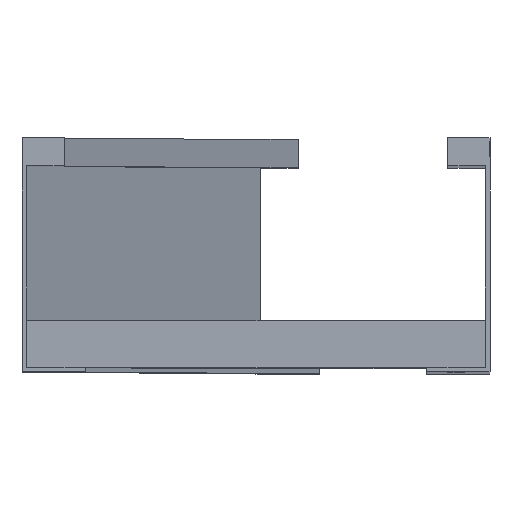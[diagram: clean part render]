
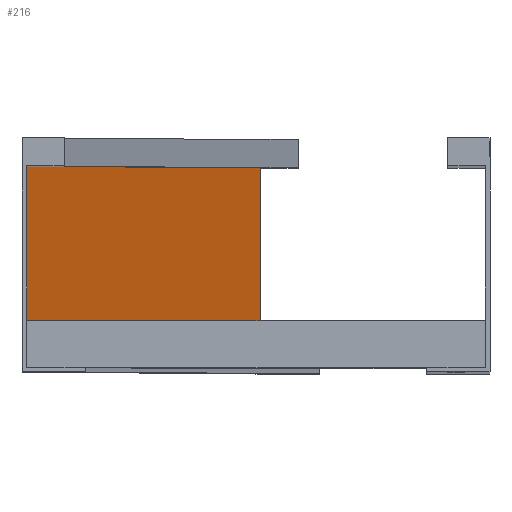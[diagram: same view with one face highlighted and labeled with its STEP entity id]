
A CAD part, top view. The second image highlights one B-rep face of the part: STEP entity #216.
In plain terms, the highlighted planar face has unit normal (0.923, 0, 0.385).
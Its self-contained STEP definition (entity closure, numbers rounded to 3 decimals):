
#64 = DIRECTION ( 'NONE',  ( -0.385, 0., 0.923 ) ) ;
#185 = LINE ( 'NONE', #2752, #3115 ) ;
#204 = DIRECTION ( 'NONE',  ( 0.385, 0., -0.923 ) ) ;
#216 = ADVANCED_FACE ( 'NONE', ( #1755 ), #3095, .F. ) ;
#283 = EDGE_CURVE ( 'NONE', #1248, #3615, #689, .T. ) ;
#298 = DIRECTION ( 'NONE',  ( -0.923, 0., -0.385 ) ) ;
#384 = CARTESIAN_POINT ( 'NONE',  ( 2., 88., -179.6 ) ) ;
#399 = DIRECTION ( 'NONE',  ( 0., -1., 0. ) ) ;
#411 = CARTESIAN_POINT ( 'NONE',  ( 102., 88., -419.6 ) ) ;
#414 = CARTESIAN_POINT ( 'NONE',  ( 2., 2., -179.6 ) ) ;
#422 = VECTOR ( 'NONE', #399, 1000. ) ;
#585 = LINE ( 'NONE', #2587, #1444 ) ;
#589 = CARTESIAN_POINT ( 'NONE',  ( 1.846, 88., -179.231 ) ) ;
#666 = LINE ( 'NONE', #1593, #1376 ) ;
#677 = ORIENTED_EDGE ( 'NONE', *, *, #2242, .T. ) ;
#689 = LINE ( 'NONE', #2907, #422 ) ;
#731 = CARTESIAN_POINT ( 'NONE',  ( 102., 2., -419.6 ) ) ;
#939 = VERTEX_POINT ( 'NONE', #731 ) ;
#1014 = AXIS2_PLACEMENT_3D ( 'NONE', #589, #298, #64 ) ;
#1248 = VERTEX_POINT ( 'NONE', #384 ) ;
#1376 = VECTOR ( 'NONE', #2726, 1000. ) ;
#1444 = VECTOR ( 'NONE', #2023, 1000. ) ;
#1487 = ORIENTED_EDGE ( 'NONE', *, *, #2661, .F. ) ;
#1593 = CARTESIAN_POINT ( 'NONE',  ( 1.846, 2., -179.231 ) ) ;
#1755 = FACE_OUTER_BOUND ( 'NONE', #3361, .T. ) ;
#1836 = VERTEX_POINT ( 'NONE', #411 ) ;
#1865 = ORIENTED_EDGE ( 'NONE', *, *, #283, .T. ) ;
#1939 = EDGE_CURVE ( 'NONE', #1248, #1836, #185, .T. ) ;
#2023 = DIRECTION ( 'NONE',  ( 0., -1., 0. ) ) ;
#2242 = EDGE_CURVE ( 'NONE', #3615, #939, #666, .T. ) ;
#2587 = CARTESIAN_POINT ( 'NONE',  ( 102., 88., -419.6 ) ) ;
#2661 = EDGE_CURVE ( 'NONE', #1836, #939, #585, .T. ) ;
#2726 = DIRECTION ( 'NONE',  ( 0.385, 0., -0.923 ) ) ;
#2752 = CARTESIAN_POINT ( 'NONE',  ( 1.846, 88., -179.231 ) ) ;
#2907 = CARTESIAN_POINT ( 'NONE',  ( 2., 88., -179.6 ) ) ;
#3095 = PLANE ( 'NONE',  #1014 ) ;
#3115 = VECTOR ( 'NONE', #204, 1000. ) ;
#3361 = EDGE_LOOP ( 'NONE', ( #3394, #1865, #677, #1487 ) ) ;
#3394 = ORIENTED_EDGE ( 'NONE', *, *, #1939, .F. ) ;
#3615 = VERTEX_POINT ( 'NONE', #414 ) ;
